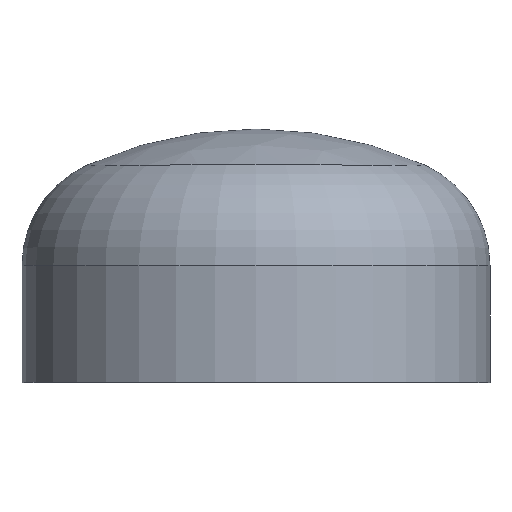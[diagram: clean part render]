
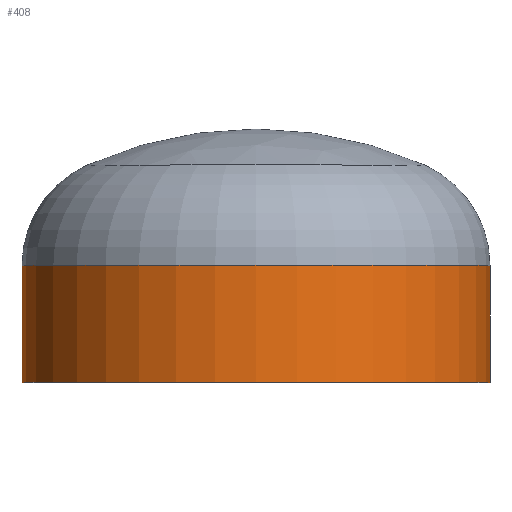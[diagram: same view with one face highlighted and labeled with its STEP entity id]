
A CAD part, top view. The second image highlights one B-rep face of the part: STEP entity #408.
In plain terms, the highlighted cylindrical face has radius 300 mm (diameter 600 mm), a partial arc.
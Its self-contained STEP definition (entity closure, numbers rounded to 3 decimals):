
#7 = AXIS2_PLACEMENT_3D ( 'NONE', #144, #133, #308 ) ;
#9 = EDGE_LOOP ( 'NONE', ( #141, #110, #143, #41 ) ) ;
#23 = VERTEX_POINT ( 'NONE', #363 ) ;
#41 = ORIENTED_EDGE ( 'NONE', *, *, #139, .F. ) ;
#42 = VERTEX_POINT ( 'NONE', #292 ) ;
#80 = AXIS2_PLACEMENT_3D ( 'NONE', #119, #394, #351 ) ;
#85 = EDGE_CURVE ( 'NONE', #42, #23, #350, .T. ) ;
#103 = VERTEX_POINT ( 'NONE', #240 ) ;
#110 = ORIENTED_EDGE ( 'NONE', *, *, #85, .T. ) ;
#119 = CARTESIAN_POINT ( 'NONE',  ( 0., 150., 0. ) ) ;
#133 = DIRECTION ( 'NONE',  ( 0., -1., 0. ) ) ;
#139 = EDGE_CURVE ( 'NONE', #239, #103, #281, .T. ) ;
#141 = ORIENTED_EDGE ( 'NONE', *, *, #173, .T. ) ;
#143 = ORIENTED_EDGE ( 'NONE', *, *, #391, .F. ) ;
#144 = CARTESIAN_POINT ( 'NONE',  ( 0., 0., 0. ) ) ;
#158 = FACE_OUTER_BOUND ( 'NONE', #9, .T. ) ;
#171 = DIRECTION ( 'NONE',  ( 0., -1., 0. ) ) ;
#173 = EDGE_CURVE ( 'NONE', #239, #42, #384, .T. ) ;
#225 = AXIS2_PLACEMENT_3D ( 'NONE', #338, #171, #288 ) ;
#230 = VECTOR ( 'NONE', #261, 1000. ) ;
#239 = VERTEX_POINT ( 'NONE', #374 ) ;
#240 = CARTESIAN_POINT ( 'NONE',  ( 300., 0., 0. ) ) ;
#256 = CARTESIAN_POINT ( 'NONE',  ( -300., 0., 0. ) ) ;
#261 = DIRECTION ( 'NONE',  ( 0., -1., 0. ) ) ;
#281 = LINE ( 'NONE', #316, #389 ) ;
#288 = DIRECTION ( 'NONE',  ( 1., 0., 0. ) ) ;
#292 = CARTESIAN_POINT ( 'NONE',  ( -300., 150., 0. ) ) ;
#308 = DIRECTION ( 'NONE',  ( 1., 0., 0. ) ) ;
#316 = CARTESIAN_POINT ( 'NONE',  ( 300., 0., 0. ) ) ;
#325 = DIRECTION ( 'NONE',  ( 0., -1., 0. ) ) ;
#335 = CYLINDRICAL_SURFACE ( 'NONE', #225, 300. ) ;
#338 = CARTESIAN_POINT ( 'NONE',  ( 0., 0., 0. ) ) ;
#350 = LINE ( 'NONE', #256, #230 ) ;
#351 = DIRECTION ( 'NONE',  ( 1., 0., 0. ) ) ;
#363 = CARTESIAN_POINT ( 'NONE',  ( -300., 0., 0. ) ) ;
#374 = CARTESIAN_POINT ( 'NONE',  ( 300., 150., 0. ) ) ;
#384 = CIRCLE ( 'NONE', #80, 300. ) ;
#389 = VECTOR ( 'NONE', #325, 1000. ) ;
#391 = EDGE_CURVE ( 'NONE', #103, #23, #393, .T. ) ;
#393 = CIRCLE ( 'NONE', #7, 300. ) ;
#394 = DIRECTION ( 'NONE',  ( 0., -1., 0. ) ) ;
#408 = ADVANCED_FACE ( 'NONE', ( #158 ), #335, .T. ) ;
